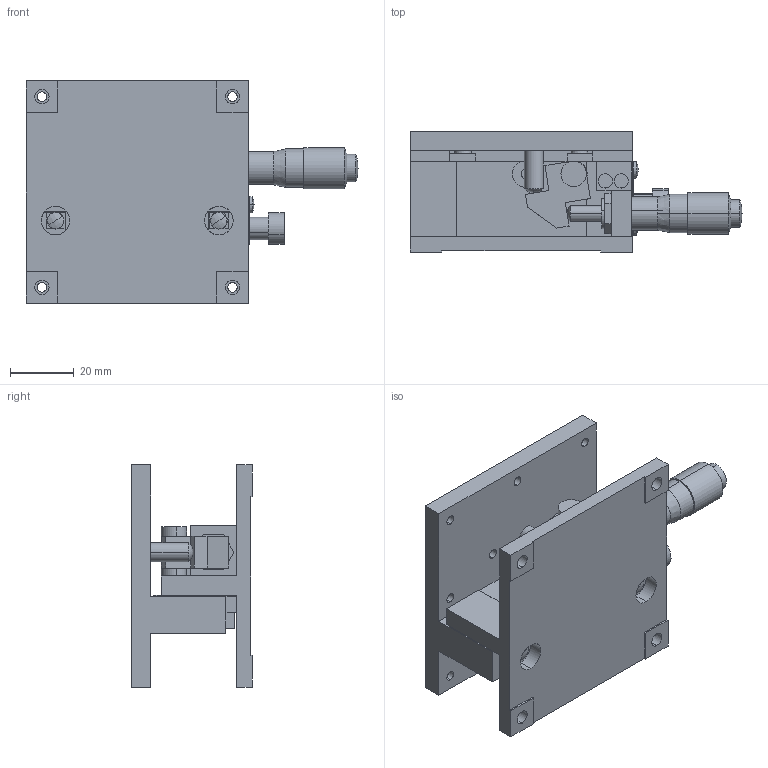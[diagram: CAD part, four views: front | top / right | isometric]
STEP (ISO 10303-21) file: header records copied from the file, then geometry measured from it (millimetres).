
FILE_DESCRIPTION (( 'STEP AP214' ), '1' );
FILE_NAME ('LV‐7041‐8.STEP', '2007-09-14T06:23:30', ( '' ), ( '' ), 'SwSTEP 2.0', 'SolidWorks 2006303', '' );
FILE_SCHEMA (( 'AUTOMOTIVE_DESIGN' ));
Length unit declared in the file: millimetre
Products named in the file (5): LV70410080乚2_棉太倌; LV70410080乚4_棉太倌; LV70410080乚3_棉太倌; LV70410080乚1_棉太倌; LV‐7041‐8
Assembly tree (4 placements, depth 2):
  LV‐7041‐8
    LV70410080乚3_棉太倌
    LV70410080乚1_棉太倌
    LV70410080乚4_棉太倌
    LV70410080乚2_棉太倌
Bounding box: 104.5 x 38 x 70 mm (x, y, z)
Volume: 84540.3 mm3; surface area: 38891.6 mm2
Topology: 4 solids, 5 shells, 259 faces, 660 edges, 421 vertices
Faces by surface type: plane 137, cylinder 88, cone 16, sphere 16, torus 2
Entity records: 8046 total; most frequent: DIRECTION 1447, CARTESIAN_POINT 1345, ORIENTED_EDGE 1316, EDGE_CURVE 658, AXIS2_PLACEMENT_3D 523, VERTEX_POINT 421, VECTOR 401, LINE 401
